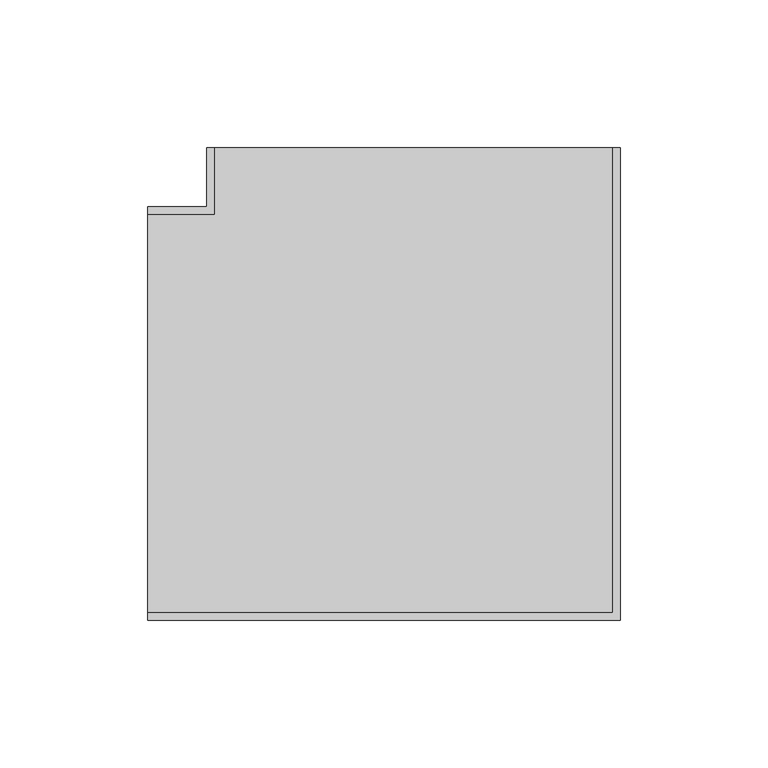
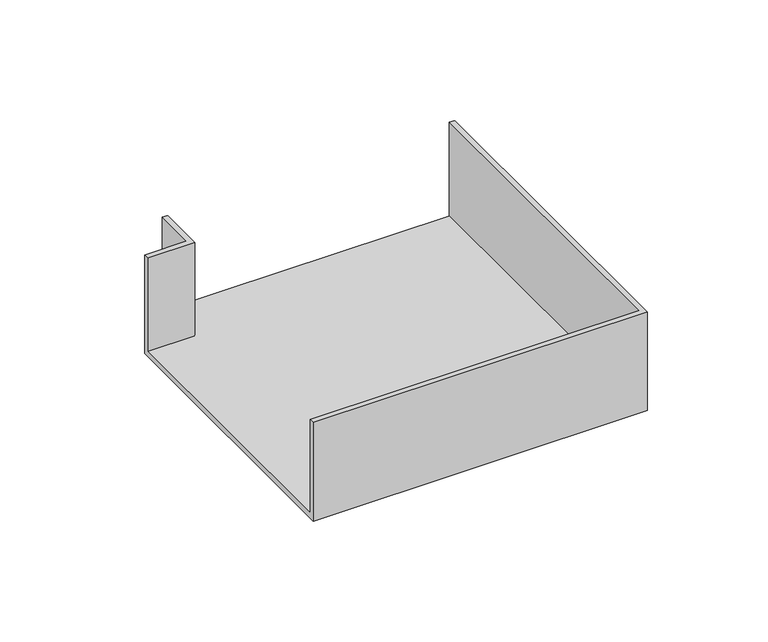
"""IFC4 building model written with IfcOpenShell, lengths in millimetres: cable carrier fitting geometry, КНС_УголПлоский_ILF_DKC : Угол плоский белый."""

import ifcopenshell
import ifcopenshell.guid

model = None  # the IFC model being written
_history = None  # IfcOwnerHistory: only IFC2X3 demands one
_inside = {}  # id of a spatial element -> (the spatial element, [elements in it])
_under = {}  # id of a project, library or spatial element -> (it, [spatial elements below it])
_declared = {}  # id of a project -> (the project, [libraries it declares])
_typed = {}  # id of a type object -> (the type object, [elements of that type])
_made_of = {}  # id of a material, layer set ... -> (it, [elements and type objects made of it])


def new_model(schema):
    """Start an empty IFC model of exactly this schema.

    Asked for "IFC4X3", IfcOpenShell would pick the latest addendum, in which some entities
    have other attributes; the version numbers below select the first issue.
    IFC2X3 requires an IfcOwnerHistory on every rooted entity: one is made here for all.
    """
    global model, _history
    if schema == "IFC4X3":
        model = ifcopenshell.file(schema_version=(4, 3, 0, 0))
    else:
        model = ifcopenshell.file(schema=schema)
    _inside.clear()
    _under.clear()
    _declared.clear()
    _typed.clear()
    _made_of.clear()
    _history = None
    if model.schema == "IFC2X3":
        org = make("IfcOrganization", Name="unknown")
        user = make(
            "IfcPersonAndOrganization",
            ThePerson=make("IfcPerson", FamilyName="unknown"),
            TheOrganization=org,
        )
        app = make(
            "IfcApplication",
            ApplicationDeveloper=org,
            Version="unknown",
            ApplicationFullName="unknown",
            ApplicationIdentifier="unknown",
        )
        _history = make(
            "IfcOwnerHistory",
            OwningUser=user,
            OwningApplication=app,
            ChangeAction="ADDED",
            CreationDate=0,
        )
    return model


def make(cls, **values):
    """One entity of the class cls with the attributes given. An attribute that is None is left unset."""
    return model.create_entity(
        cls, **{name: value for name, value in values.items() if value is not None}
    )


def rooted(cls, **values):
    """An entity with a GlobalId (a new one), such as an element, a storey or a relation."""
    return make(cls, GlobalId=ifcopenshell.guid.new(), OwnerHistory=_history, **values)


def si_unit(unit_type, name, prefix=None):
    """IfcSIUnit, for example si_unit("LENGTHUNIT", "METRE", prefix="MILLI")."""
    return make("IfcSIUnit", UnitType=unit_type, Prefix=prefix, Name=name)


def assignment(units):
    """IfcUnitAssignment: the units of a project."""
    return None if units is None else make("IfcUnitAssignment", Units=units)


def point(xyz):
    """IfcCartesianPoint."""
    return None if xyz is None else make("IfcCartesianPoint", Coordinates=xyz)


def direction(xyz):
    """IfcDirection."""
    return None if xyz is None else make("IfcDirection", DirectionRatios=xyz)


def frame(location, z_axis=None, x_axis=None):
    """IfcAxis2Placement3D, a coordinate frame: its origin and axes. An axis left out is left unset."""
    return make(
        "IfcAxis2Placement3D",
        Location=point(location),
        Axis=direction(z_axis),
        RefDirection=direction(x_axis),
    )


def origin():
    """The frame at (0, 0, 0) with its axes left unset."""
    return frame((0.0, 0.0, 0.0))


def place(relative_to, where):
    """IfcLocalPlacement: puts the frame where relative to a parent placement (None: the world)."""
    return make(
        "IfcLocalPlacement", PlacementRelTo=relative_to, RelativePlacement=where
    )


def context(
    kind, dimensions, precision=None, world=None, true_north=None, identifier=None
):
    """IfcGeometricRepresentationContext, for example the 3D "Model" context."""
    return make(
        "IfcGeometricRepresentationContext",
        ContextIdentifier=identifier,
        ContextType=kind,
        CoordinateSpaceDimension=dimensions,
        Precision=precision,
        WorldCoordinateSystem=world,
        TrueNorth=true_north,
    )


def project(units=None, contexts=None):
    """IfcProject with its units and contexts."""
    return rooted(
        "IfcProject",
        Name="project",
        RepresentationContexts=contexts,
        UnitsInContext=assignment(units),
    )


def spatial(cls, under=None, at=None, **own):
    """A site, building, storey or space (cls), placed at a placement, below another one or the project."""
    s = rooted(cls, ObjectPlacement=at, **own)
    if under is not None:
        _under.setdefault(under.id(), (under, []))[1].append(s)
    return s


def faces_of(points, faces, orient=None, outer=None):
    """IfcFace entities. A face is a list of loops; a loop is a list of indices into points, from 0.

    orient and outer hold one flag for each loop. By default every Orientation is true, the
    first loop of a face is its IfcFaceOuterBound and the others are IfcFaceBound.
    """
    made = []
    for i, loops in enumerate(faces):
        bounds = []
        for j, loop in enumerate(loops):
            is_outer = j == 0 if outer is None else outer[i][j]
            bounds.append(
                make(
                    "IfcFaceOuterBound" if is_outer else "IfcFaceBound",
                    Bound=make("IfcPolyLoop", Polygon=[points[k] for k in loop]),
                    Orientation=True if orient is None else orient[i][j],
                )
            )
        made.append(make("IfcFace", Bounds=bounds))
    return made


def faceted_brep(points, faces, orient=None, outer=None, voids=None):
    """IfcFacetedBrep: a solid bounded by flat faces; with voids (closed shells), ...WithVoids."""
    shared = [point(p) for p in points]
    hull = make("IfcClosedShell", CfsFaces=faces_of(shared, faces, orient, outer))
    if voids is None:
        return make("IfcFacetedBrep", Outer=hull)
    return make(
        "IfcFacetedBrepWithVoids",
        Outer=hull,
        Voids=[
            make(cls, CfsFaces=faces_of(shared, fs, o, b)) for cls, fs, o, b in voids
        ],
    )


def shape(context_of_items, identifier, shape_type, items):
    """IfcShapeRepresentation: the items that make up one representation, for example the "Body"."""
    return make(
        "IfcShapeRepresentation",
        ContextOfItems=context_of_items,
        RepresentationIdentifier=identifier,
        RepresentationType=shape_type,
        Items=items,
    )


def source(mapping_origin, context_of_items, identifier, shape_type, items):
    """IfcRepresentationMap: a shape defined once, which mapped items show again and again."""
    return make(
        "IfcRepresentationMap",
        MappingOrigin=mapping_origin,
        MappedRepresentation=shape(context_of_items, identifier, shape_type, items),
    )


def transform(
    local_origin,
    x_axis=None,
    y_axis=None,
    z_axis=None,
    scale=None,
    scale2=None,
    scale3=None,
    uniform=True,
):
    """IfcCartesianTransformationOperator3D, or its non-uniform kind. x_axis, y_axis, z_axis: its Axis1, 2, 3."""
    if uniform:
        return make(
            "IfcCartesianTransformationOperator3D",
            Axis1=direction(x_axis),
            Axis2=direction(y_axis),
            LocalOrigin=point(local_origin),
            Scale=scale,
            Axis3=direction(z_axis),
        )
    return make(
        "IfcCartesianTransformationOperator3DnonUniform",
        Axis1=direction(x_axis),
        Axis2=direction(y_axis),
        LocalOrigin=point(local_origin),
        Scale=scale,
        Axis3=direction(z_axis),
        Scale2=scale2,
        Scale3=scale3,
    )


def mapped(mapping_source, mapping_target):
    """IfcMappedItem: shows the shape of a source again, moved by a transform."""
    return make(
        "IfcMappedItem", MappingSource=mapping_source, MappingTarget=mapping_target
    )


def made_of(thing, what):
    """Note that an element or type object is made of a material, layer set ...; save() writes the relation."""
    if what is not None:
        _made_of.setdefault(what.id(), (what, []))[1].append(thing)
    return thing


def element(
    cls,
    number,
    at=None,
    inside=None,
    cuts=None,
    type_object=None,
    material=None,
    context=None,
    identifier="Body",
    shape_type=None,
    held_by="IfcProductDefinitionShape",
    body=None,
    shapes=None,
    **own,
):
    """One element of the class cls, such as IfcWall. Its Tag is "e" and its number.

    at: its placement. inside: the storey or other place that contains it. cuts: it is an
    opening in that element (IfcRelVoidsElement). A single representation is given by context,
    identifier, shape_type and body (its items); several are given by shapes. held_by: the class
    of the entity that holds the representations. save() writes the other relations.
    """
    e = rooted(cls, Tag="e%d" % number, ObjectPlacement=at, **own)
    if body is not None:
        shapes = [shape(context, identifier, shape_type, body)]
    if shapes is not None:
        e.Representation = make(held_by, Representations=shapes)
    if inside is not None:
        _inside.setdefault(inside.id(), (inside, []))[1].append(e)
    if cuts is not None:
        rooted(
            "IfcRelVoidsElement", RelatingBuildingElement=cuts, RelatedOpeningElement=e
        )
    if type_object is not None:
        _typed.setdefault(type_object.id(), (type_object, []))[1].append(e)
    return made_of(e, material)


def aggregate(whole, parts):
    """IfcRelAggregates: a whole, such as a stair, and the parts it consists of."""
    return rooted("IfcRelAggregates", RelatingObject=whole, RelatedObjects=parts)


def save(model, path):
    """Write the relations noted so far, then the file.

    IfcRelAggregates (storeys below a building ...), IfcRelContainedInSpatialStructure (elements
    in a storey), IfcRelDefinesByType, IfcRelAssociatesMaterial and IfcRelDeclares: one each for
    every whole, place, type object, material and project.
    """
    for whole, parts in _under.values():
        aggregate(whole, parts)
    for where, things in _inside.values():
        rooted(
            "IfcRelContainedInSpatialStructure",
            RelatedElements=things,
            RelatingStructure=where,
        )
    for kind, things in _typed.values():
        rooted("IfcRelDefinesByType", RelatedObjects=things, RelatingType=kind)
    for what, things in _made_of.values():
        rooted("IfcRelAssociatesMaterial", RelatedObjects=things, RelatingMaterial=what)
    for by, libraries in _declared.values():
        rooted("IfcRelDeclares", RelatingContext=by, RelatedDefinitions=libraries)
    model.write(path)


def cable_carrier_fitting_70ad5371(model_context):
    return source(origin(), model_context, "Body", "Brep", [
        faceted_brep([(-90.0, 70.0, -25.0), (-90.0, -70.0, -25.0), (-90.0, -70.0, 25.0), (-90.0, -67.46, 25.0), (-90.0, -67.46, -22.46), (-90.0, 67.46, -22.46), (-90.0, 67.46, 25.0), (-90.0, 70.0, 25.0), (-70.0, 70.0, -25.0), (-70.0, 90.0, -25.0), (70.0, 90.0, -25.0), (70.0, -70.0, -25.0), (70.0, -70.0, 25.0), (70.0, 90.0, 25.0), (67.46, 90.0, 25.0), (67.46, -67.46, 25.0), (67.46, -67.46, -22.46), (67.46, 90.0, -22.46), (-67.46, 90.0, -22.46), (-67.46, 67.46, -22.46), (-67.46, 67.46, 25.0), (-67.46, 90.0, 25.0), (-70.0, 90.0, 25.0), (-70.0, 70.0, 25.0)], [[[0, 1, 2, 3, 4, 5, 6, 7]], [[1, 0, 8, 9, 10, 11]], [[2, 1, 11, 12]], [[3, 2, 12, 13, 14, 15]], [[4, 3, 15, 16]], [[5, 4, 16, 17, 18, 19]], [[6, 5, 19, 20]], [[7, 6, 20, 21, 22, 23]], [[0, 7, 23, 8]], [[9, 22, 21, 18, 17, 14, 13, 10]], [[12, 11, 10, 13]], [[16, 15, 14, 17]], [[20, 19, 18, 21]], [[8, 23, 22, 9]]]),
    ])


if __name__ == "__main__":
    model = new_model("IFC4")
    model_context = context("Model", 3, world=origin())
    ifc_project = project(units=[si_unit("LENGTHUNIT", "METRE", prefix="MILLI")], contexts=[model_context])
    site = spatial("IfcSite", under=ifc_project)
    building = spatial("IfcBuilding", under=site)
    placement = place(None, origin())
    cable_carrier_fitting_shape = cable_carrier_fitting_70ad5371(model_context)
    element("IfcCableCarrierFitting", 1, ObjectType="КНС_УголПлоский_ILF_DKC : Угол плоский белый", at=placement, inside=building, context=model_context, shape_type="MappedRepresentation", body=[
        mapped(cable_carrier_fitting_shape, transform((0.0, 0.0, 0.0), x_axis=(1.0, 0.0, 0.0), y_axis=(0.0, 1.0, 0.0), z_axis=(0.0, 0.0, 1.0))),
    ])
    save(model, "model.ifc")
